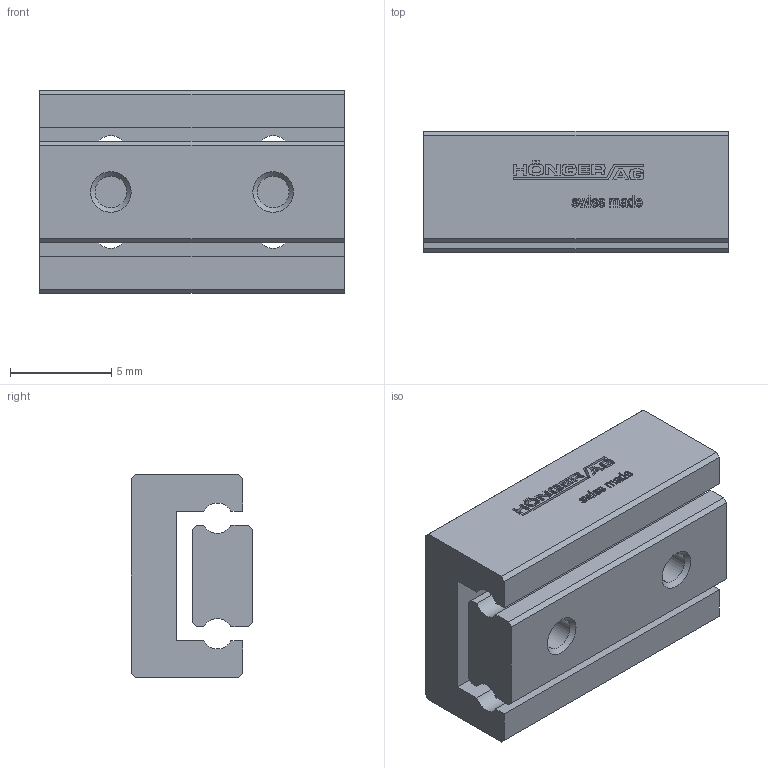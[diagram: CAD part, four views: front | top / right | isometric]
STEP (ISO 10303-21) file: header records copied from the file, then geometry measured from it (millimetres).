
FILE_DESCRIPTION(/* description */ ('STEP AP214'),/* implementation_level */ '2;1');
FILE_NAME(/* name */ 'NDN 1-15.05(0)',/* time_stamp */ '2025-04-16T17:08:56+02:00',/* author */ ('License CC BY-ND 4.0'),/* organization */ ('CADENAS'),/* preprocessor_version */ 'ST-DEVELOPER v19.3',/* originating_system */ 'PARTsolutions',/* authorisation */ ' ');
FILE_SCHEMA (('AUTOMOTIVE_DESIGN {1 0 10303 214 3 1 1}'));
Length unit declared in the file: millimetre
Products named in the file (3): NDN 1-15.05(0); NDN 1-15.05_1; NDN 1-15.05_2
Assembly tree (2 placements, depth 2):
  NDN 1-15.05(0)
    NDN 1-15.05_1
    NDN 1-15.05_2
Bounding box: 15 x 6 x 10 mm (x, y, z)
Volume: 682.3 mm3; surface area: 960.7 mm2
Topology: 2 solids, 2 shells, 511 faces, 1432 edges, 952 vertices
Faces by surface type: cylinder 302, plane 201, cone 8
Full cylindrical faces by diameter (mm): 1.567 x6
Entity records: 16723 total; most frequent: DIRECTION 3058, CARTESIAN_POINT 2884, ORIENTED_EDGE 2836, EDGE_CURVE 1418, AXIS2_PLACEMENT_3D 1126, VERTEX_POINT 952, LINE 806, VECTOR 806
